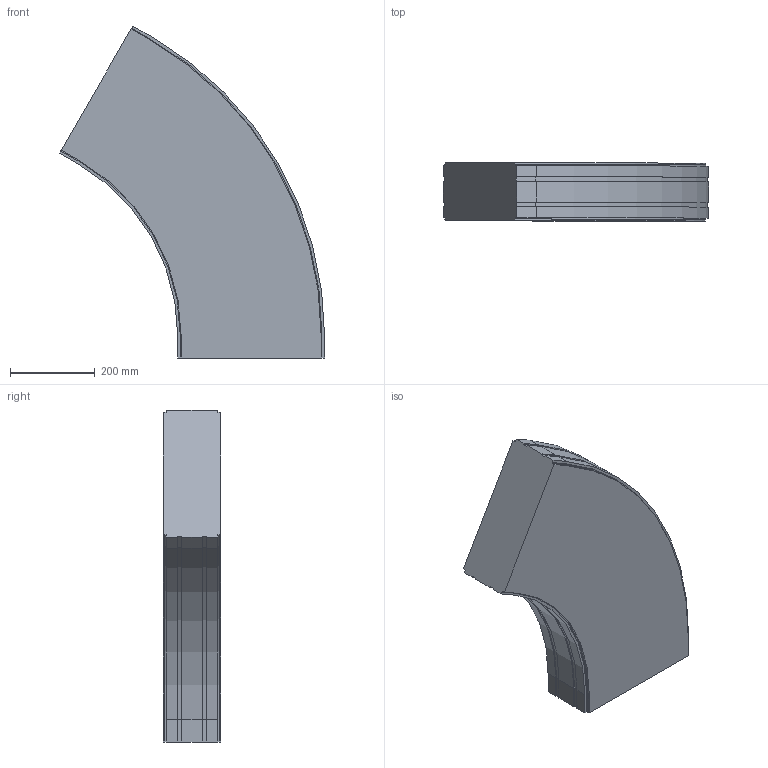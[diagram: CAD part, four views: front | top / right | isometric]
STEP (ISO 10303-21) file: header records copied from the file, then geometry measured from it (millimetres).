
FILE_DESCRIPTION (( 'STEP AP214' ), '1' );
FILE_NAME ('FS-MTC2-150-INOX horizontaalbocht.350 60°.STEP', '2017-02-08T12:40:30', ( '' ), ( '' ), 'SwSTEP 2.0', 'SolidWorks 2016', '' );
FILE_SCHEMA (( 'AUTOMOTIVE_DESIGN' ));
Length unit declared in the file: millimetre
Products named in the file (1): FS-MTC2-150-INOX horizontaalbocht.350 60°
Bounding box: 624.97 x 136.5 x 782.83 mm (x, y, z)
Volume: 36377027 mm3; surface area: 857429.5 mm2
Topology: 1 solids, 1 shells, 74 faces, 216 edges, 144 vertices
Faces by surface type: plane 56, cylinder 18
Entity records: 2470 total; most frequent: CARTESIAN_POINT 435, ORIENTED_EDGE 432, DIRECTION 402, EDGE_CURVE 216, VECTOR 180, LINE 180, VERTEX_POINT 144, AXIS2_PLACEMENT_3D 111
